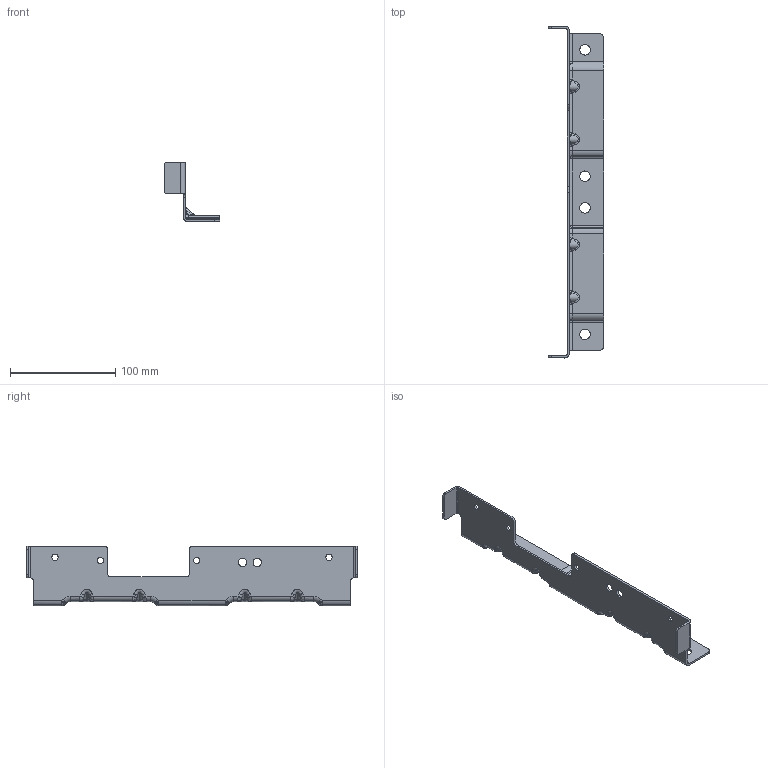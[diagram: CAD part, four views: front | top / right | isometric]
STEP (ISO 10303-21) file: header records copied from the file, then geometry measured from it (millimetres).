
FILE_DESCRIPTION(('CATIA V5 STEP Exchange'),'2;1');
FILE_NAME('E:\吉利商用车G3\10 2D\手动\钣金单件图纸\SHT0015280-后安装支架\SHT0015280.stp','2023-09-25T01:19:59+00:00',('none'),('none'),'CATIA Version 5 Release 20 GA (IN-10)','CATIA V5 STEP AP214','none');
FILE_SCHEMA(('AUTOMOTIVE_DESIGN { 1 0 10303 214 1 1 1 1 }'));
Length unit declared in the file: millimetre
Products named in the file (1): Part60
Bounding box: 53 x 315 x 56.5 mm (x, y, z)
Volume: 49088.2 mm3; surface area: 51427.2 mm2
Topology: 1 solids, 1 shells, 269 faces, 698 edges, 419 vertices
Faces by surface type: cylinder 165, plane 52, bspline 32, sphere 12, torus 8
Entity records: 11542 total; most frequent: CARTESIAN_POINT 5664, ORIENTED_EDGE 1372, DIRECTION 903, EDGE_CURVE 686, VERTEX_POINT 419, AXIS2_PLACEMENT_3D 400, EDGE_LOOP 289, VECTOR 283
